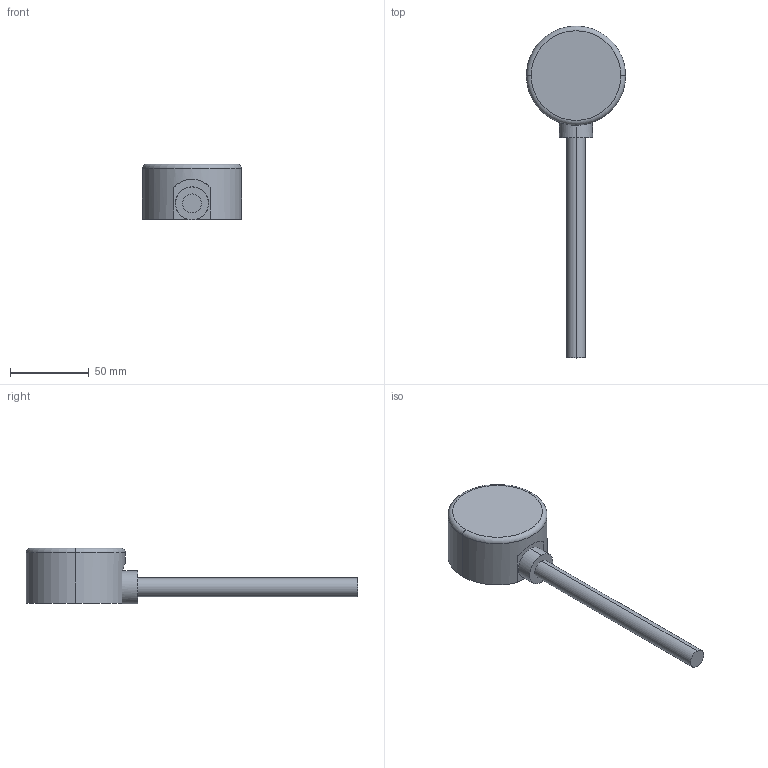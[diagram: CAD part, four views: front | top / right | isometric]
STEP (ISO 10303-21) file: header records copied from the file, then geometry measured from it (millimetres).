
FILE_DESCRIPTION (( 'STEP AP214' ), '1' );
FILE_NAME ('Termometr_bimetaliczny_x_0_3D_AFRISO.STEP', '2022-12-19T09:45:09', ( '' ), ( '' ), 'SwSTEP 2.0', 'SolidWorks 2022', '' );
FILE_SCHEMA (( 'AUTOMOTIVE_DESIGN' ));
Length unit declared in the file: millimetre
Products named in the file (1): Termometr_bimetaliczny_x_0_3D_AFRISO
Bounding box: 63 x 210.8 x 35.5 mm (x, y, z)
Volume: 127193.7 mm3; surface area: 18834.9 mm2
Topology: 1 solids, 1 shells, 15 faces, 32 edges, 20 vertices
Faces by surface type: cylinder 7, plane 6, torus 2
Entity records: 471 total; most frequent: CARTESIAN_POINT 93, DIRECTION 83, ORIENTED_EDGE 64, AXIS2_PLACEMENT_3D 36, EDGE_CURVE 32, CIRCLE 20, VERTEX_POINT 20, EDGE_LOOP 16
